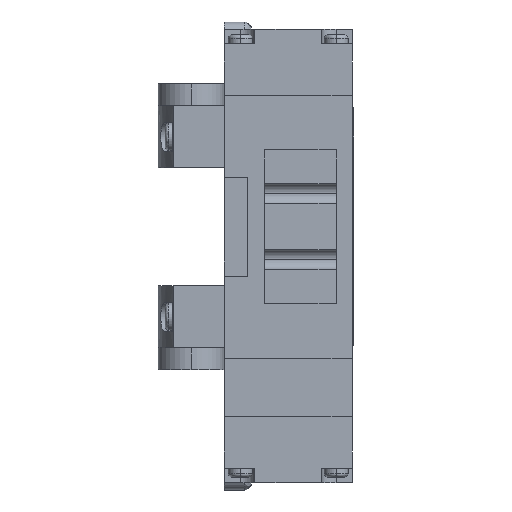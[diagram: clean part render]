
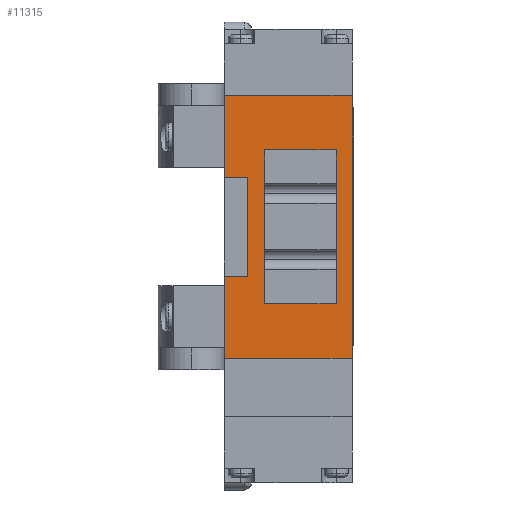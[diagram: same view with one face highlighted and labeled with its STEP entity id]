
A CAD part, left-side view. The second image highlights one B-rep face of the part: STEP entity #11315.
In plain terms, the highlighted planar face has unit normal (-1, 0, 0).
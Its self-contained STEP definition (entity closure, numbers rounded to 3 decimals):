
#283 = EDGE_CURVE ( 'NONE', #11093, #6467, #12656, .T. ) ;
#386 = CARTESIAN_POINT ( 'NONE',  ( -20., -17.85, -72. ) ) ;
#548 = CARTESIAN_POINT ( 'NONE',  ( -20., 17.15, -49.5 ) ) ;
#576 = ORIENTED_EDGE ( 'NONE', *, *, #8675, .T. ) ;
#617 = DIRECTION ( 'NONE',  ( 0., 1., 0. ) ) ;
#690 = LINE ( 'NONE', #3570, #3051 ) ;
#745 = DIRECTION ( 'NONE',  ( 0., 0., 1. ) ) ;
#1199 = CARTESIAN_POINT ( 'NONE',  ( -20., -17.85, -72. ) ) ;
#1412 = AXIS2_PLACEMENT_3D ( 'NONE', #1476, #10613, #4511 ) ;
#1476 = CARTESIAN_POINT ( 'NONE',  ( -20., 17.15, -72. ) ) ;
#1487 = ORIENTED_EDGE ( 'NONE', *, *, #10903, .T. ) ;
#1652 = CARTESIAN_POINT ( 'NONE',  ( -20., 10.75, -72. ) ) ;
#2177 = LINE ( 'NONE', #4576, #4555 ) ;
#2561 = DIRECTION ( 'NONE',  ( 0., 0., -1. ) ) ;
#2607 = LINE ( 'NONE', #3771, #7711 ) ;
#2679 = ORIENTED_EDGE ( 'NONE', *, *, #12680, .T. ) ;
#2777 = VECTOR ( 'NONE', #7353, 1000. ) ;
#2789 = CARTESIAN_POINT ( 'NONE',  ( -20., 17.15, -22.5 ) ) ;
#3051 = VECTOR ( 'NONE', #4018, 1000. ) ;
#3431 = CARTESIAN_POINT ( 'NONE',  ( -20., -13.45, -15. ) ) ;
#3538 = CARTESIAN_POINT ( 'NONE',  ( -20., 10.75, -22.5 ) ) ;
#3570 = CARTESIAN_POINT ( 'NONE',  ( -20., 6.05, -72. ) ) ;
#3582 = DIRECTION ( 'NONE',  ( 0., -1., 0. ) ) ;
#3771 = CARTESIAN_POINT ( 'NONE',  ( -20., 17.15, -72. ) ) ;
#3850 = CARTESIAN_POINT ( 'NONE',  ( -20., 17.15, -15. ) ) ;
#3888 = LINE ( 'NONE', #386, #4169 ) ;
#3932 = CARTESIAN_POINT ( 'NONE',  ( -20., 17.15, -72. ) ) ;
#4018 = DIRECTION ( 'NONE',  ( 0., 0., 1. ) ) ;
#4169 = VECTOR ( 'NONE', #745, 1000. ) ;
#4195 = VECTOR ( 'NONE', #6508, 1000. ) ;
#4240 = ORIENTED_EDGE ( 'NONE', *, *, #11501, .T. ) ;
#4511 = DIRECTION ( 'NONE',  ( 0., 0., 1. ) ) ;
#4555 = VECTOR ( 'NONE', #3582, 1000. ) ;
#4576 = CARTESIAN_POINT ( 'NONE',  ( -20., 17.15, -22.5 ) ) ;
#4862 = DIRECTION ( 'NONE',  ( 0., 1., 0. ) ) ;
#5428 = LINE ( 'NONE', #7375, #2777 ) ;
#5445 = CARTESIAN_POINT ( 'NONE',  ( -20., -13.45, -72. ) ) ;
#5571 = ORIENTED_EDGE ( 'NONE', *, *, #7093, .T. ) ;
#6369 = EDGE_CURVE ( 'NONE', #8681, #12458, #12085, .T. ) ;
#6427 = VERTEX_POINT ( 'NONE', #12881 ) ;
#6467 = VERTEX_POINT ( 'NONE', #12377 ) ;
#6508 = DIRECTION ( 'NONE',  ( 0., 0., -1. ) ) ;
#6903 = LINE ( 'NONE', #548, #11907 ) ;
#6994 = ORIENTED_EDGE ( 'NONE', *, *, #7769, .T. ) ;
#6999 = ORIENTED_EDGE ( 'NONE', *, *, #283, .T. ) ;
#7008 = VERTEX_POINT ( 'NONE', #8169 ) ;
#7093 = EDGE_CURVE ( 'NONE', #7445, #9413, #5428, .T. ) ;
#7123 = VECTOR ( 'NONE', #4862, 1000. ) ;
#7280 = DIRECTION ( 'NONE',  ( 0., 1., 0. ) ) ;
#7295 = CARTESIAN_POINT ( 'NONE',  ( -20., 17.15, -57. ) ) ;
#7353 = DIRECTION ( 'NONE',  ( 0., -1., 0. ) ) ;
#7375 = CARTESIAN_POINT ( 'NONE',  ( -20., 17.15, -72. ) ) ;
#7445 = VERTEX_POINT ( 'NONE', #3932 ) ;
#7462 = CARTESIAN_POINT ( 'NONE',  ( -20., 10.75, -49.5 ) ) ;
#7599 = FACE_OUTER_BOUND ( 'NONE', #12213, .T. ) ;
#7711 = VECTOR ( 'NONE', #8822, 1000. ) ;
#7769 = EDGE_CURVE ( 'NONE', #12458, #7008, #6903, .T. ) ;
#7776 = EDGE_CURVE ( 'NONE', #9413, #12231, #3888, .T. ) ;
#7874 = DIRECTION ( 'NONE',  ( 0., -1., 0. ) ) ;
#7891 = VECTOR ( 'NONE', #10698, 1000. ) ;
#8073 = ORIENTED_EDGE ( 'NONE', *, *, #6369, .T. ) ;
#8169 = CARTESIAN_POINT ( 'NONE',  ( -20., 17.15, -49.5 ) ) ;
#8675 = EDGE_CURVE ( 'NONE', #6467, #10495, #690, .T. ) ;
#8681 = VERTEX_POINT ( 'NONE', #3538 ) ;
#8691 = VERTEX_POINT ( 'NONE', #3431 ) ;
#8779 = VERTEX_POINT ( 'NONE', #2789 ) ;
#8822 = DIRECTION ( 'NONE',  ( 0., 0., 1. ) ) ;
#9177 = ORIENTED_EDGE ( 'NONE', *, *, #7776, .T. ) ;
#9413 = VERTEX_POINT ( 'NONE', #1199 ) ;
#9456 = ORIENTED_EDGE ( 'NONE', *, *, #12119, .F. ) ;
#9462 = VECTOR ( 'NONE', #2561, 1000. ) ;
#9638 = LINE ( 'NONE', #5445, #4195 ) ;
#9720 = CARTESIAN_POINT ( 'NONE',  ( -20., 17.15, -72. ) ) ;
#10088 = CARTESIAN_POINT ( 'NONE',  ( -20., -13.45, -57. ) ) ;
#10495 = VERTEX_POINT ( 'NONE', #10867 ) ;
#10613 = DIRECTION ( 'NONE',  ( -1., 0., 0. ) ) ;
#10698 = DIRECTION ( 'NONE',  ( 0., 0., 1. ) ) ;
#10759 = LINE ( 'NONE', #3850, #11915 ) ;
#10867 = CARTESIAN_POINT ( 'NONE',  ( -20., 6.05, -15. ) ) ;
#10876 = CARTESIAN_POINT ( 'NONE',  ( -20., -17.85, 0. ) ) ;
#10903 = EDGE_CURVE ( 'NONE', #8779, #8681, #2177, .T. ) ;
#10970 = CARTESIAN_POINT ( 'NONE',  ( -20., 17.15, 0. ) ) ;
#11085 = EDGE_LOOP ( 'NONE', ( #2679, #6999, #576, #4240 ) ) ;
#11093 = VERTEX_POINT ( 'NONE', #10088 ) ;
#11177 = LINE ( 'NONE', #9720, #7891 ) ;
#11315 = ADVANCED_FACE ( 'NONE', ( #12905, #7599 ), #12525, .T. ) ;
#11501 = EDGE_CURVE ( 'NONE', #10495, #8691, #10759, .T. ) ;
#11524 = EDGE_CURVE ( 'NONE', #12231, #6427, #12418, .T. ) ;
#11711 = ORIENTED_EDGE ( 'NONE', *, *, #11524, .T. ) ;
#11907 = VECTOR ( 'NONE', #617, 1000. ) ;
#11915 = VECTOR ( 'NONE', #7874, 1000. ) ;
#12085 = LINE ( 'NONE', #1652, #9462 ) ;
#12119 = EDGE_CURVE ( 'NONE', #8779, #6427, #11177, .T. ) ;
#12213 = EDGE_LOOP ( 'NONE', ( #11711, #9456, #1487, #8073, #6994, #12982, #5571, #9177 ) ) ;
#12231 = VERTEX_POINT ( 'NONE', #10876 ) ;
#12377 = CARTESIAN_POINT ( 'NONE',  ( -20., 6.05, -57. ) ) ;
#12418 = LINE ( 'NONE', #10970, #7123 ) ;
#12458 = VERTEX_POINT ( 'NONE', #7462 ) ;
#12525 = PLANE ( 'NONE',  #1412 ) ;
#12656 = LINE ( 'NONE', #7295, #12812 ) ;
#12680 = EDGE_CURVE ( 'NONE', #8691, #11093, #9638, .T. ) ;
#12812 = VECTOR ( 'NONE', #7280, 1000. ) ;
#12865 = EDGE_CURVE ( 'NONE', #7445, #7008, #2607, .T. ) ;
#12881 = CARTESIAN_POINT ( 'NONE',  ( -20., 17.15, 0. ) ) ;
#12905 = FACE_BOUND ( 'NONE', #11085, .T. ) ;
#12982 = ORIENTED_EDGE ( 'NONE', *, *, #12865, .F. ) ;
